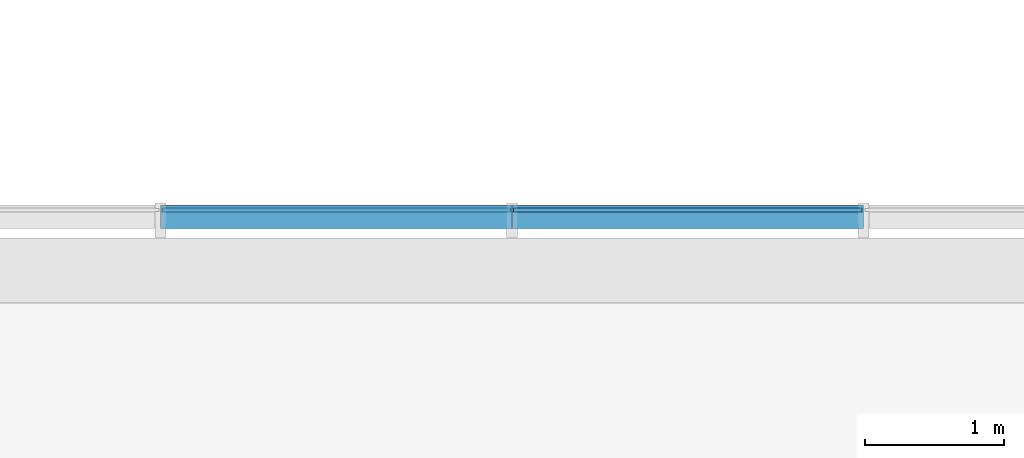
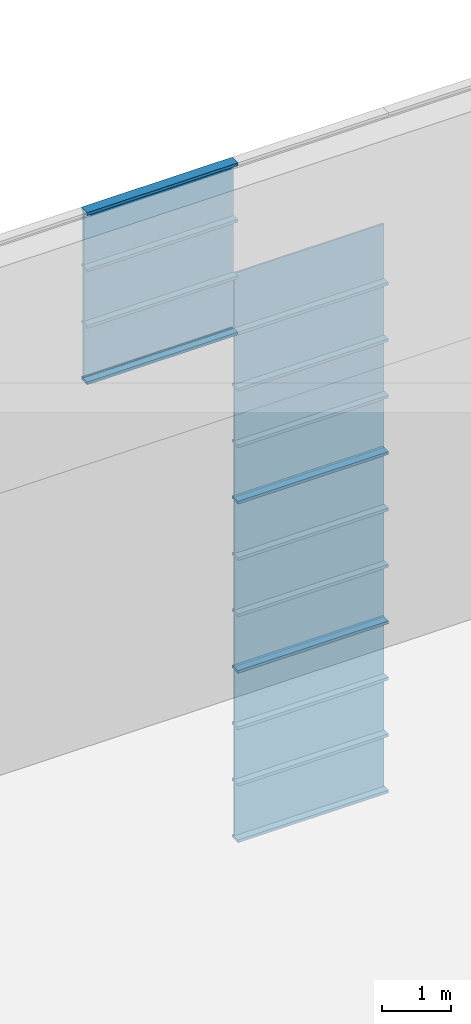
# One storey, part 48 of 105: 30 building element parts, 4 elements without a shape of their own.
"""IFC4 building model written with IfcOpenShell, lengths in millimetres."""

from ifc_helpers import new_model, entity, si_unit, converted_unit, derived_unit, direction, frame, origin_with_axes, place, context, subcontext, project, spatial, triangles, material, element, aggregate, save


model = new_model("IFC4")

# Units and contexts
model_context = context("Model", 3, precision=1e-05, world=origin_with_axes(), true_north=direction((0.0, 1.0)))
body_context = subcontext(model_context, "Body", "Model", "MODEL_VIEW")
ifc_project = project(units=[si_unit("LENGTHUNIT", "METRE", prefix="MILLI"), si_unit("AREAUNIT", "SQUARE_METRE"), si_unit("VOLUMEUNIT", "CUBIC_METRE"), converted_unit("PLANEANGLEUNIT", "DEGREE", entity("IfcLengthMeasure", 0.017453), si_unit("PLANEANGLEUNIT", "RADIAN"), dimensions=[0, 0, 0, 0, 0, 0, 0]), si_unit("SOLIDANGLEUNIT", "STERADIAN"), si_unit("MASSUNIT", "GRAM"), si_unit("TIMEUNIT", "SECOND"), si_unit("THERMODYNAMICTEMPERATUREUNIT", "DEGREE_CELSIUS"), si_unit("LUMINOUSINTENSITYUNIT", "LUMEN"), si_unit("POWERUNIT", "WATT"), derived_unit("THERMALTRANSMITTANCEUNIT", [(si_unit("POWERUNIT", "WATT"), 1), (si_unit("THERMODYNAMICTEMPERATUREUNIT", "KELVIN"), -1), (si_unit("AREAUNIT", "SQUARE_METRE"), -1)])], contexts=[model_context])

# Site, building, storey
site_placement = place(None, origin_with_axes())
site = spatial("IfcSite", under=ifc_project, at=site_placement, Name="Default Site", CompositionType="ELEMENT")
building_placement = place(site_placement, origin_with_axes())
building = spatial("IfcBuilding", under=site, at=building_placement, Name="Default Building", CompositionType="ELEMENT")
storey_placement = place(building_placement, origin_with_axes())
storey = spatial("IfcBuildingStorey", under=building, at=storey_placement, Name="OG - Story", CompositionType="ELEMENT", Elevation=0.0)

# Curtain wall, building element parts
curtain_wall_1_placement = place(storey_placement, origin_with_axes())
curtain_wall_1 = element("IfcCurtainWall", 1, at=curtain_wall_1_placement, inside=storey, Name="Fassade-004", PredefinedType="NOTDEFINED")
ifc_material_1 = material(Name="Normalglas")
building_element_part_1_placement = place(curtain_wall_1_placement, frame((33014.549222, -4389.262838, 0.0), z_axis=(0.0, 0.0, 1.0), x_axis=(1.0, 0.0, 0.0)))
building_element_part_1 = element("IfcBuildingElementPart", 2, at=building_element_part_1_placement, material=ifc_material_1, Name="Normalglas", PredefinedType="NOTDEFINED", context=body_context, shape_type="Tessellation", body=[
    triangles([(23990.0, -14.999, 995.0), (23990.0, 15.0, 995.0), (21483.684, 15.0, 995.0), (21483.684, -14.999, 995.0), (23990.0, -14.999, 5.0), (23990.0, 15.0, 5.0), (21483.684, 15.0, 5.0), (21483.684, -14.999, 5.0)], [[1, 2, 3], [1, 3, 4], [5, 6, 2], [5, 2, 1], [2, 6, 7], [2, 7, 3], [4, 3, 7], [4, 7, 8], [1, 4, 8], [1, 8, 5], [8, 7, 6], [8, 6, 5]], closed=False),
])
building_element_part_2_placement = place(curtain_wall_1_placement, frame((33014.549222, -4389.262838, 0.0), z_axis=(0.0, 0.0, 1.0), x_axis=(1.0, 0.0, 0.0)))
building_element_part_2 = element("IfcBuildingElementPart", 3, at=building_element_part_2_placement, material=ifc_material_1, Name="Normalglas", PredefinedType="NOTDEFINED", context=body_context, shape_type="Tessellation", body=[
    triangles([(23990.0, -14.999, 1995.0), (23990.0, 15.0, 1995.0), (21483.684, 15.0, 1995.0), (21483.684, -14.999, 1995.0), (23990.0, -14.999, 1005.0), (23990.0, 15.0, 1005.0), (21483.684, 15.0, 1005.0), (21483.684, -14.999, 1005.0)], [[1, 2, 3], [1, 3, 4], [5, 6, 2], [5, 2, 1], [2, 6, 7], [2, 7, 3], [4, 3, 7], [4, 7, 8], [1, 4, 8], [1, 8, 5], [8, 7, 6], [8, 6, 5]], closed=False),
])
building_element_part_3_placement = place(curtain_wall_1_placement, frame((33014.549222, -4389.262838, 0.0), z_axis=(0.0, 0.0, 1.0), x_axis=(1.0, 0.0, 0.0)))
building_element_part_3 = element("IfcBuildingElementPart", 4, at=building_element_part_3_placement, material=ifc_material_1, Name="Normalglas", PredefinedType="NOTDEFINED", context=body_context, shape_type="Tessellation", body=[
    triangles([(23990.0, -14.999, 2995.0), (23990.0, 15.0, 2995.0), (21483.684, 15.0, 2995.0), (21483.684, -14.999, 2995.0), (23990.0, -14.999, 2005.0), (23990.0, 15.0, 2005.0), (21483.684, 15.0, 2005.0), (21483.684, -14.999, 2005.0)], [[1, 2, 3], [1, 3, 4], [5, 6, 2], [5, 2, 1], [2, 6, 7], [2, 7, 3], [4, 3, 7], [4, 7, 8], [1, 4, 8], [1, 8, 5], [8, 7, 6], [8, 6, 5]], closed=False),
])
ifc_material_2 = material(Name="Blech")
building_element_part_4_placement = place(curtain_wall_1_placement, frame((33014.549222, -4389.262838, 0.0), z_axis=(0.0, 0.0, 1.0), x_axis=(1.0, 0.0, 0.0)))
building_element_part_4 = element("IfcBuildingElementPart", 5, at=building_element_part_4_placement, material=ifc_material_2, Name="Blech", PredefinedType="NOTDEFINED", context=body_context, shape_type="Tessellation", body=[
    triangles([(24000.0, 35.0, -24.999), (24000.0, 35.0, 25.0), (24000.0, 15.0, 25.0), (24000.0, 15.0, 5.0), (24000.0, -14.999, 5.0), (24000.0, -132.999, 25.0), (24000.0, -132.999, -24.999), (24000.0, -14.999, 25.0), (21473.684, -14.999, 5.0), (21473.684, -14.999, 25.0), (21473.684, -132.999, 25.0), (21473.684, -132.999, -24.999), (21473.684, 35.0, -24.999), (21473.684, 35.0, 25.0), (21473.684, 15.0, 25.0), (21473.684, 15.0, 5.0)], [[1, 2, 3], [1, 3, 4], [1, 4, 5], [1, 5, 6], [1, 6, 7], [8, 6, 5], [5, 9, 10], [5, 10, 8], [10, 11, 6], [10, 6, 8], [11, 12, 7], [11, 7, 6], [12, 13, 1], [12, 1, 7], [13, 14, 2], [13, 2, 1], [3, 2, 14], [3, 14, 15], [15, 16, 4], [15, 4, 3], [4, 16, 9], [4, 9, 5], [15, 16, 13], [13, 16, 9], [13, 9, 11], [11, 9, 10], [13, 11, 12], [15, 13, 14]], closed=False),
])
building_element_part_5_placement = place(curtain_wall_1_placement, frame((33014.549222, -4389.262838, 0.0), z_axis=(0.0, 0.0, 1.0), x_axis=(1.0, 0.0, 0.0)))
building_element_part_5 = element("IfcBuildingElementPart", 6, at=building_element_part_5_placement, material=ifc_material_2, Name="Blech", PredefinedType="NOTDEFINED", context=body_context, shape_type="Tessellation", body=[
    triangles([(24000.0, 35.0, 975.0), (24000.0, 15.0, 975.0), (24000.0, 35.0, 1025.0), (24000.0, 15.0, 995.0), (24000.0, 15.0, 1005.0), (24000.0, -14.999, 995.0), (24000.0, -14.999, 1005.0), (24000.0, -14.999, 1025.0), (24000.0, -14.999, 975.0), (24000.0, -132.999, 975.0), (24000.0, -132.999, 1025.0), (24000.0, 15.0, 1025.0), (21473.684, -14.999, 995.0), (21473.684, 15.0, 995.0), (21473.684, 15.0, 975.0), (21473.684, 35.0, 975.0), (21473.684, 35.0, 1025.0), (21473.684, 15.0, 1025.0), (21473.684, 15.0, 1005.0), (21473.684, -14.999, 1005.0), (21473.684, -14.999, 1025.0), (21473.684, -132.999, 1025.0), (21473.684, -132.999, 975.0), (21473.684, -14.999, 975.0)], [[1, 2, 3], [3, 2, 4], [3, 4, 5], [5, 4, 6], [5, 6, 7], [8, 9, 10], [8, 10, 11], [3, 5, 12], [6, 13, 14], [6, 14, 4], [4, 14, 15], [4, 15, 2], [15, 16, 1], [15, 1, 2], [1, 16, 17], [1, 17, 3], [18, 12, 3], [18, 3, 17], [12, 18, 19], [12, 19, 5], [7, 5, 19], [7, 19, 20], [8, 7, 20], [8, 20, 21], [8, 21, 22], [8, 22, 11], [11, 22, 23], [11, 23, 10], [9, 10, 23], [9, 23, 24], [9, 24, 13], [9, 13, 6], [17, 18, 16], [16, 18, 19], [16, 19, 14], [14, 19, 20], [14, 20, 13], [24, 21, 22], [24, 22, 23], [16, 14, 15]], closed=False),
])
building_element_part_6_placement = place(curtain_wall_1_placement, frame((33014.549222, -4389.262838, 0.0), z_axis=(0.0, 0.0, 1.0), x_axis=(1.0, 0.0, 0.0)))
building_element_part_6 = element("IfcBuildingElementPart", 7, at=building_element_part_6_placement, material=ifc_material_2, Name="Blech", PredefinedType="NOTDEFINED", context=body_context, shape_type="Tessellation", body=[
    triangles([(24000.0, 35.0, 1975.0), (24000.0, 15.0, 1975.0), (24000.0, 35.0, 2025.0), (24000.0, 15.0, 1995.0), (24000.0, 15.0, 2005.0), (24000.0, -14.999, 1995.0), (24000.0, -14.999, 2005.0), (24000.0, -14.999, 2025.0), (24000.0, -14.999, 1975.0), (24000.0, -132.999, 1975.0), (24000.0, -132.999, 2025.0), (24000.0, 15.0, 2025.0), (21473.684, -14.999, 1995.0), (21473.684, 15.0, 1995.0), (21473.684, 15.0, 1975.0), (21473.684, 35.0, 1975.0), (21473.684, 35.0, 2025.0), (21473.684, 15.0, 2025.0), (21473.684, 15.0, 2005.0), (21473.684, -14.999, 2005.0), (21473.684, -14.999, 2025.0), (21473.684, -132.999, 2025.0), (21473.684, -132.999, 1975.0), (21473.684, -14.999, 1975.0)], [[1, 2, 3], [3, 2, 4], [3, 4, 5], [5, 4, 6], [5, 6, 7], [8, 9, 10], [8, 10, 11], [3, 5, 12], [6, 13, 14], [6, 14, 4], [4, 14, 15], [4, 15, 2], [15, 16, 1], [15, 1, 2], [1, 16, 17], [1, 17, 3], [18, 12, 3], [18, 3, 17], [12, 18, 19], [12, 19, 5], [7, 5, 19], [7, 19, 20], [8, 7, 20], [8, 20, 21], [8, 21, 22], [8, 22, 11], [11, 22, 23], [11, 23, 10], [9, 10, 23], [9, 23, 24], [9, 24, 13], [9, 13, 6], [17, 18, 16], [16, 18, 19], [16, 19, 14], [14, 19, 20], [14, 20, 13], [24, 21, 22], [24, 22, 23], [16, 14, 15]], closed=False),
])
building_element_part_7_placement = place(curtain_wall_1_placement, frame((33014.549222, -4389.262838, 0.0), z_axis=(0.0, 0.0, 1.0), x_axis=(1.0, 0.0, 0.0)))
building_element_part_7 = element("IfcBuildingElementPart", 8, at=building_element_part_7_placement, material=ifc_material_2, Name="Blech", PredefinedType="NOTDEFINED", context=body_context, shape_type="Tessellation", body=[
    triangles([(24000.0, 15.0, 2975.0), (24000.0, 15.0, 2995.0), (24000.0, 35.0, 3025.0), (24000.0, -14.999, 2995.0), (24000.0, -132.999, 2975.0), (24000.0, -14.999, 2975.0), (24000.0, -132.999, 3025.0), (24000.0, 35.0, 2975.0), (21473.684, -14.999, 2995.0), (21473.684, 15.0, 2995.0), (21473.684, 15.0, 2975.0), (21473.684, 35.0, 2975.0), (21473.684, 35.0, 3025.0), (21473.684, -132.999, 3025.0), (21473.684, -132.999, 2975.0), (21473.684, -14.999, 2975.0)], [[1, 2, 3], [3, 2, 4], [3, 4, 5], [5, 4, 6], [3, 5, 7], [1, 3, 8], [2, 4, 9], [2, 9, 10], [11, 1, 2], [11, 2, 10], [1, 11, 12], [1, 12, 8], [13, 3, 8], [13, 8, 12], [14, 7, 3], [14, 3, 13], [15, 5, 7], [15, 7, 14], [16, 6, 5], [16, 5, 15], [4, 6, 16], [4, 16, 9], [13, 12, 11], [13, 11, 10], [13, 10, 9], [13, 9, 15], [13, 15, 14], [16, 15, 9]], closed=False),
])
aggregate(curtain_wall_1, [building_element_part_1, building_element_part_2, building_element_part_3, building_element_part_4, building_element_part_5, building_element_part_6, building_element_part_7])

curtain_wall_2_placement = place(storey_placement, origin_with_axes())
curtain_wall_2 = element("IfcCurtainWall", 9, at=curtain_wall_2_placement, inside=storey, Name="Fassade-004", PredefinedType="NOTDEFINED")
building_element_part_8_placement = place(curtain_wall_2_placement, frame((33014.549222, -4389.262838, 3000.0), z_axis=(0.0, 0.0, 1.0), x_axis=(1.0, 0.0, 0.0)))
building_element_part_8 = element("IfcBuildingElementPart", 10, at=building_element_part_8_placement, material=ifc_material_1, Name="Normalglas", PredefinedType="NOTDEFINED", context=body_context, shape_type="Tessellation", body=[
    triangles([(23990.0, -14.999, 995.0), (23990.0, 15.0, 995.0), (21483.684, 15.0, 995.0), (21483.684, -14.999, 995.0), (23990.0, -14.999, 5.0), (23990.0, 15.0, 5.0), (21483.684, 15.0, 5.0), (21483.684, -14.999, 5.0)], [[1, 2, 3], [1, 3, 4], [5, 6, 2], [5, 2, 1], [2, 6, 7], [2, 7, 3], [4, 3, 7], [4, 7, 8], [1, 4, 8], [1, 8, 5], [8, 7, 6], [8, 6, 5]], closed=False),
])
building_element_part_9_placement = place(curtain_wall_2_placement, frame((33014.549222, -4389.262838, 3000.0), z_axis=(0.0, 0.0, 1.0), x_axis=(1.0, 0.0, 0.0)))
building_element_part_9 = element("IfcBuildingElementPart", 11, at=building_element_part_9_placement, material=ifc_material_1, Name="Normalglas", PredefinedType="NOTDEFINED", context=body_context, shape_type="Tessellation", body=[
    triangles([(23990.0, -14.999, 1995.0), (23990.0, 15.0, 1995.0), (21483.684, 15.0, 1995.0), (21483.684, -14.999, 1995.0), (23990.0, -14.999, 1005.0), (23990.0, 15.0, 1005.0), (21483.684, 15.0, 1005.0), (21483.684, -14.999, 1005.0)], [[1, 2, 3], [1, 3, 4], [5, 6, 2], [5, 2, 1], [2, 6, 7], [2, 7, 3], [4, 3, 7], [4, 7, 8], [1, 4, 8], [1, 8, 5], [8, 7, 6], [8, 6, 5]], closed=False),
])
building_element_part_10_placement = place(curtain_wall_2_placement, frame((33014.549222, -4389.262838, 3000.0), z_axis=(0.0, 0.0, 1.0), x_axis=(1.0, 0.0, 0.0)))
building_element_part_10 = element("IfcBuildingElementPart", 12, at=building_element_part_10_placement, material=ifc_material_1, Name="Normalglas", PredefinedType="NOTDEFINED", context=body_context, shape_type="Tessellation", body=[
    triangles([(23990.0, -14.999, 2995.0), (23990.0, 15.0, 2995.0), (21483.684, 15.0, 2995.0), (21483.684, -14.999, 2995.0), (23990.0, -14.999, 2005.0), (23990.0, 15.0, 2005.0), (21483.684, 15.0, 2005.0), (21483.684, -14.999, 2005.0)], [[1, 2, 3], [1, 3, 4], [5, 6, 2], [5, 2, 1], [2, 6, 7], [2, 7, 3], [4, 3, 7], [4, 7, 8], [1, 4, 8], [1, 8, 5], [8, 7, 6], [8, 6, 5]], closed=False),
])
building_element_part_11_placement = place(curtain_wall_2_placement, frame((33014.549222, -4389.262838, 3000.0), z_axis=(0.0, 0.0, 1.0), x_axis=(1.0, 0.0, 0.0)))
building_element_part_11 = element("IfcBuildingElementPart", 13, at=building_element_part_11_placement, material=ifc_material_2, Name="Blech", PredefinedType="NOTDEFINED", context=body_context, shape_type="Tessellation", body=[
    triangles([(24000.0, 35.0, -24.999), (24000.0, 35.0, 25.0), (24000.0, 15.0, 25.0), (24000.0, 15.0, 5.0), (24000.0, -14.999, 5.0), (24000.0, -132.999, 25.0), (24000.0, -132.999, -24.999), (24000.0, -14.999, 25.0), (21473.684, -14.999, 5.0), (21473.684, -14.999, 25.0), (21473.684, -132.999, 25.0), (21473.684, -132.999, -24.999), (21473.684, 35.0, -24.999), (21473.684, 35.0, 25.0), (21473.684, 15.0, 25.0), (21473.684, 15.0, 5.0)], [[1, 2, 3], [1, 3, 4], [1, 4, 5], [1, 5, 6], [1, 6, 7], [8, 6, 5], [5, 9, 10], [5, 10, 8], [10, 11, 6], [10, 6, 8], [11, 12, 7], [11, 7, 6], [12, 13, 1], [12, 1, 7], [13, 14, 2], [13, 2, 1], [3, 2, 14], [3, 14, 15], [15, 16, 4], [15, 4, 3], [4, 16, 9], [4, 9, 5], [15, 16, 13], [13, 16, 9], [13, 9, 11], [11, 9, 10], [13, 11, 12], [15, 13, 14]], closed=False),
])
building_element_part_12_placement = place(curtain_wall_2_placement, frame((33014.549222, -4389.262838, 3000.0), z_axis=(0.0, 0.0, 1.0), x_axis=(1.0, 0.0, 0.0)))
building_element_part_12 = element("IfcBuildingElementPart", 14, at=building_element_part_12_placement, material=ifc_material_2, Name="Blech", PredefinedType="NOTDEFINED", context=body_context, shape_type="Tessellation", body=[
    triangles([(24000.0, 35.0, 975.0), (24000.0, 15.0, 975.0), (24000.0, 35.0, 1025.0), (24000.0, 15.0, 995.0), (24000.0, 15.0, 1005.0), (24000.0, -14.999, 995.0), (24000.0, -14.999, 1005.0), (24000.0, -14.999, 1025.0), (24000.0, -14.999, 975.0), (24000.0, -132.999, 975.0), (24000.0, -132.999, 1025.0), (24000.0, 15.0, 1025.0), (21473.684, -14.999, 995.0), (21473.684, 15.0, 995.0), (21473.684, 15.0, 975.0), (21473.684, 35.0, 975.0), (21473.684, 35.0, 1025.0), (21473.684, 15.0, 1025.0), (21473.684, 15.0, 1005.0), (21473.684, -14.999, 1005.0), (21473.684, -14.999, 1025.0), (21473.684, -132.999, 1025.0), (21473.684, -132.999, 975.0), (21473.684, -14.999, 975.0)], [[1, 2, 3], [3, 2, 4], [3, 4, 5], [5, 4, 6], [5, 6, 7], [8, 9, 10], [8, 10, 11], [3, 5, 12], [6, 13, 14], [6, 14, 4], [4, 14, 15], [4, 15, 2], [15, 16, 1], [15, 1, 2], [1, 16, 17], [1, 17, 3], [18, 12, 3], [18, 3, 17], [12, 18, 19], [12, 19, 5], [7, 5, 19], [7, 19, 20], [8, 7, 20], [8, 20, 21], [8, 21, 22], [8, 22, 11], [11, 22, 23], [11, 23, 10], [9, 10, 23], [9, 23, 24], [9, 24, 13], [9, 13, 6], [17, 18, 16], [16, 18, 19], [16, 19, 14], [14, 19, 20], [14, 20, 13], [24, 21, 22], [24, 22, 23], [16, 14, 15]], closed=False),
])
building_element_part_13_placement = place(curtain_wall_2_placement, frame((33014.549222, -4389.262838, 3000.0), z_axis=(0.0, 0.0, 1.0), x_axis=(1.0, 0.0, 0.0)))
building_element_part_13 = element("IfcBuildingElementPart", 15, at=building_element_part_13_placement, material=ifc_material_2, Name="Blech", PredefinedType="NOTDEFINED", context=body_context, shape_type="Tessellation", body=[
    triangles([(24000.0, 35.0, 1975.0), (24000.0, 15.0, 1975.0), (24000.0, 35.0, 2025.0), (24000.0, 15.0, 1995.0), (24000.0, 15.0, 2005.0), (24000.0, -14.999, 1995.0), (24000.0, -14.999, 2005.0), (24000.0, -14.999, 2025.0), (24000.0, -14.999, 1975.0), (24000.0, -132.999, 1975.0), (24000.0, -132.999, 2025.0), (24000.0, 15.0, 2025.0), (21473.684, -14.999, 1995.0), (21473.684, 15.0, 1995.0), (21473.684, 15.0, 1975.0), (21473.684, 35.0, 1975.0), (21473.684, 35.0, 2025.0), (21473.684, 15.0, 2025.0), (21473.684, 15.0, 2005.0), (21473.684, -14.999, 2005.0), (21473.684, -14.999, 2025.0), (21473.684, -132.999, 2025.0), (21473.684, -132.999, 1975.0), (21473.684, -14.999, 1975.0)], [[1, 2, 3], [3, 2, 4], [3, 4, 5], [5, 4, 6], [5, 6, 7], [8, 9, 10], [8, 10, 11], [3, 5, 12], [6, 13, 14], [6, 14, 4], [4, 14, 15], [4, 15, 2], [15, 16, 1], [15, 1, 2], [1, 16, 17], [1, 17, 3], [18, 12, 3], [18, 3, 17], [12, 18, 19], [12, 19, 5], [7, 5, 19], [7, 19, 20], [8, 7, 20], [8, 20, 21], [8, 21, 22], [8, 22, 11], [11, 22, 23], [11, 23, 10], [9, 10, 23], [9, 23, 24], [9, 24, 13], [9, 13, 6], [17, 18, 16], [16, 18, 19], [16, 19, 14], [14, 19, 20], [14, 20, 13], [24, 21, 22], [24, 22, 23], [16, 14, 15]], closed=False),
])
building_element_part_14_placement = place(curtain_wall_2_placement, frame((33014.549222, -4389.262838, 3000.0), z_axis=(0.0, 0.0, 1.0), x_axis=(1.0, 0.0, 0.0)))
building_element_part_14 = element("IfcBuildingElementPart", 16, at=building_element_part_14_placement, material=ifc_material_2, Name="Blech", PredefinedType="NOTDEFINED", context=body_context, shape_type="Tessellation", body=[
    triangles([(24000.0, 15.0, 2975.0), (24000.0, 15.0, 2995.0), (24000.0, 35.0, 3025.0), (24000.0, -14.999, 2995.0), (24000.0, -132.999, 2975.0), (24000.0, -14.999, 2975.0), (24000.0, -132.999, 3025.0), (24000.0, 35.0, 2975.0), (21473.684, -14.999, 2995.0), (21473.684, 15.0, 2995.0), (21473.684, 15.0, 2975.0), (21473.684, 35.0, 2975.0), (21473.684, 35.0, 3025.0), (21473.684, -132.999, 3025.0), (21473.684, -132.999, 2975.0), (21473.684, -14.999, 2975.0)], [[1, 2, 3], [3, 2, 4], [3, 4, 5], [5, 4, 6], [3, 5, 7], [1, 3, 8], [2, 4, 9], [2, 9, 10], [11, 1, 2], [11, 2, 10], [1, 11, 12], [1, 12, 8], [13, 3, 8], [13, 8, 12], [14, 7, 3], [14, 3, 13], [15, 5, 7], [15, 7, 14], [16, 6, 5], [16, 5, 15], [4, 6, 16], [4, 16, 9], [13, 12, 11], [13, 11, 10], [13, 10, 9], [13, 9, 15], [13, 15, 14], [16, 15, 9]], closed=False),
])
aggregate(curtain_wall_2, [building_element_part_8, building_element_part_9, building_element_part_10, building_element_part_11, building_element_part_12, building_element_part_13, building_element_part_14])

curtain_wall_3_placement = place(storey_placement, origin_with_axes())
curtain_wall_3 = element("IfcCurtainWall", 17, at=curtain_wall_3_placement, inside=storey, Name="Fassade-004", PredefinedType="NOTDEFINED")
building_element_part_15_placement = place(curtain_wall_3_placement, frame((33014.549222, -4389.262838, 6000.0), z_axis=(0.0, 0.0, 1.0), x_axis=(1.0, 0.0, 0.0)))
building_element_part_15 = element("IfcBuildingElementPart", 18, at=building_element_part_15_placement, material=ifc_material_1, Name="Normalglas", PredefinedType="NOTDEFINED", context=body_context, shape_type="Tessellation", body=[
    triangles([(23990.0, -14.999, 995.0), (23990.0, 15.0, 995.0), (21483.684, 15.0, 995.0), (21483.684, -14.999, 995.0), (23990.0, -14.999, 5.0), (23990.0, 15.0, 5.0), (21483.684, 15.0, 5.0), (21483.684, -14.999, 5.0)], [[1, 2, 3], [1, 3, 4], [5, 6, 2], [5, 2, 1], [2, 6, 7], [2, 7, 3], [4, 3, 7], [4, 7, 8], [1, 4, 8], [1, 8, 5], [8, 7, 6], [8, 6, 5]], closed=False),
])
building_element_part_16_placement = place(curtain_wall_3_placement, frame((33014.549222, -4389.262838, 6000.0), z_axis=(0.0, 0.0, 1.0), x_axis=(1.0, 0.0, 0.0)))
building_element_part_16 = element("IfcBuildingElementPart", 19, at=building_element_part_16_placement, material=ifc_material_1, Name="Normalglas", PredefinedType="NOTDEFINED", context=body_context, shape_type="Tessellation", body=[
    triangles([(23990.0, -14.999, 1995.0), (23990.0, 15.0, 1995.0), (21483.684, 15.0, 1995.0), (21483.684, -14.999, 1995.0), (23990.0, -14.999, 1005.0), (23990.0, 15.0, 1005.0), (21483.684, 15.0, 1005.0), (21483.684, -14.999, 1005.0)], [[1, 2, 3], [1, 3, 4], [5, 6, 2], [5, 2, 1], [2, 6, 7], [2, 7, 3], [4, 3, 7], [4, 7, 8], [1, 4, 8], [1, 8, 5], [8, 7, 6], [8, 6, 5]], closed=False),
])
building_element_part_17_placement = place(curtain_wall_3_placement, frame((33014.549222, -4389.262838, 6000.0), z_axis=(0.0, 0.0, 1.0), x_axis=(1.0, 0.0, 0.0)))
building_element_part_17 = element("IfcBuildingElementPart", 20, at=building_element_part_17_placement, material=ifc_material_1, Name="Normalglas", PredefinedType="NOTDEFINED", context=body_context, shape_type="Tessellation", body=[
    triangles([(23990.0, -14.999, 2995.0), (23990.0, 15.0, 2995.0), (21483.684, 15.0, 2995.0), (21483.684, -14.999, 2995.0), (23990.0, -14.999, 2005.0), (23990.0, 15.0, 2005.0), (21483.684, 15.0, 2005.0), (21483.684, -14.999, 2005.0)], [[1, 2, 3], [1, 3, 4], [5, 6, 2], [5, 2, 1], [2, 6, 7], [2, 7, 3], [4, 3, 7], [4, 7, 8], [1, 4, 8], [1, 8, 5], [8, 7, 6], [8, 6, 5]], closed=False),
])
building_element_part_18_placement = place(curtain_wall_3_placement, frame((33014.549222, -4389.262838, 6000.0), z_axis=(0.0, 0.0, 1.0), x_axis=(1.0, 0.0, 0.0)))
building_element_part_18 = element("IfcBuildingElementPart", 21, at=building_element_part_18_placement, material=ifc_material_2, Name="Blech", PredefinedType="NOTDEFINED", context=body_context, shape_type="Tessellation", body=[
    triangles([(24000.0, 35.0, -24.999), (24000.0, 35.0, 25.0), (24000.0, 15.0, 25.0), (24000.0, 15.0, 5.0), (24000.0, -14.999, 5.0), (24000.0, -132.999, 25.0), (24000.0, -132.999, -24.999), (24000.0, -14.999, 25.0), (21473.684, -14.999, 5.0), (21473.684, -14.999, 25.0), (21473.684, -132.999, 25.0), (21473.684, -132.999, -24.999), (21473.684, 35.0, -24.999), (21473.684, 35.0, 25.0), (21473.684, 15.0, 25.0), (21473.684, 15.0, 5.0)], [[1, 2, 3], [1, 3, 4], [1, 4, 5], [1, 5, 6], [1, 6, 7], [8, 6, 5], [5, 9, 10], [5, 10, 8], [10, 11, 6], [10, 6, 8], [11, 12, 7], [11, 7, 6], [12, 13, 1], [12, 1, 7], [13, 14, 2], [13, 2, 1], [3, 2, 14], [3, 14, 15], [15, 16, 4], [15, 4, 3], [4, 16, 9], [4, 9, 5], [15, 16, 13], [13, 16, 9], [13, 9, 11], [11, 9, 10], [13, 11, 12], [15, 13, 14]], closed=False),
])
building_element_part_19_placement = place(curtain_wall_3_placement, frame((33014.549222, -4389.262838, 6000.0), z_axis=(0.0, 0.0, 1.0), x_axis=(1.0, 0.0, 0.0)))
building_element_part_19 = element("IfcBuildingElementPart", 22, at=building_element_part_19_placement, material=ifc_material_2, Name="Blech", PredefinedType="NOTDEFINED", context=body_context, shape_type="Tessellation", body=[
    triangles([(24000.0, 35.0, 975.0), (24000.0, 15.0, 975.0), (24000.0, 35.0, 1025.0), (24000.0, 15.0, 995.0), (24000.0, 15.0, 1005.0), (24000.0, -14.999, 995.0), (24000.0, -14.999, 1005.0), (24000.0, -14.999, 1025.0), (24000.0, -14.999, 975.0), (24000.0, -132.999, 975.0), (24000.0, -132.999, 1025.0), (24000.0, 15.0, 1025.0), (21473.684, -14.999, 995.0), (21473.684, 15.0, 995.0), (21473.684, 15.0, 975.0), (21473.684, 35.0, 975.0), (21473.684, 35.0, 1025.0), (21473.684, 15.0, 1025.0), (21473.684, 15.0, 1005.0), (21473.684, -14.999, 1005.0), (21473.684, -14.999, 1025.0), (21473.684, -132.999, 1025.0), (21473.684, -132.999, 975.0), (21473.684, -14.999, 975.0)], [[1, 2, 3], [3, 2, 4], [3, 4, 5], [5, 4, 6], [5, 6, 7], [8, 9, 10], [8, 10, 11], [3, 5, 12], [6, 13, 14], [6, 14, 4], [4, 14, 15], [4, 15, 2], [15, 16, 1], [15, 1, 2], [1, 16, 17], [1, 17, 3], [18, 12, 3], [18, 3, 17], [12, 18, 19], [12, 19, 5], [7, 5, 19], [7, 19, 20], [8, 7, 20], [8, 20, 21], [8, 21, 22], [8, 22, 11], [11, 22, 23], [11, 23, 10], [9, 10, 23], [9, 23, 24], [9, 24, 13], [9, 13, 6], [17, 18, 16], [16, 18, 19], [16, 19, 14], [14, 19, 20], [14, 20, 13], [24, 21, 22], [24, 22, 23], [16, 14, 15]], closed=False),
])
building_element_part_20_placement = place(curtain_wall_3_placement, frame((33014.549222, -4389.262838, 6000.0), z_axis=(0.0, 0.0, 1.0), x_axis=(1.0, 0.0, 0.0)))
building_element_part_20 = element("IfcBuildingElementPart", 23, at=building_element_part_20_placement, material=ifc_material_2, Name="Blech", PredefinedType="NOTDEFINED", context=body_context, shape_type="Tessellation", body=[
    triangles([(21473.684, 15.0, 2975.0), (21473.684, 15.0, 2995.0), (21473.684, 35.0, 3025.0), (21473.684, -14.999, 2995.0), (21473.684, -132.999, 2975.0), (21473.684, -14.999, 2975.0), (21473.684, -132.999, 3025.0), (21473.684, 35.0, 2975.0), (18947.368, -14.999, 2995.0), (18947.368, 15.0, 2995.0), (18947.368, 15.0, 2975.0), (18947.368, 35.0, 2975.0), (18947.368, 35.0, 3025.0), (18947.368, -132.999, 3025.0), (18947.368, -132.999, 2975.0), (18947.368, -14.999, 2975.0)], [[1, 2, 3], [3, 2, 4], [3, 4, 5], [5, 4, 6], [3, 5, 7], [1, 3, 8], [2, 4, 9], [2, 9, 10], [11, 1, 2], [11, 2, 10], [1, 11, 12], [1, 12, 8], [13, 3, 8], [13, 8, 12], [14, 7, 3], [14, 3, 13], [15, 5, 7], [15, 7, 14], [16, 6, 5], [16, 5, 15], [4, 6, 16], [4, 16, 9], [13, 12, 11], [13, 11, 10], [13, 10, 9], [13, 9, 15], [13, 15, 14], [16, 15, 9]], closed=False),
])
building_element_part_21_placement = place(curtain_wall_3_placement, frame((33014.549222, -4389.262838, 6000.0), z_axis=(0.0, 0.0, 1.0), x_axis=(1.0, 0.0, 0.0)))
building_element_part_21 = element("IfcBuildingElementPart", 24, at=building_element_part_21_placement, material=ifc_material_2, Name="Blech", PredefinedType="NOTDEFINED", context=body_context, shape_type="Tessellation", body=[
    triangles([(24000.0, 35.0, 1975.0), (24000.0, 15.0, 1975.0), (24000.0, 35.0, 2025.0), (24000.0, 15.0, 1995.0), (24000.0, 15.0, 2005.0), (24000.0, -14.999, 1995.0), (24000.0, -14.999, 2005.0), (24000.0, -14.999, 2025.0), (24000.0, -14.999, 1975.0), (24000.0, -132.999, 1975.0), (24000.0, -132.999, 2025.0), (24000.0, 15.0, 2025.0), (21473.684, -14.999, 1995.0), (21473.684, 15.0, 1995.0), (21473.684, 15.0, 1975.0), (21473.684, 35.0, 1975.0), (21473.684, 35.0, 2025.0), (21473.684, 15.0, 2025.0), (21473.684, 15.0, 2005.0), (21473.684, -14.999, 2005.0), (21473.684, -14.999, 2025.0), (21473.684, -132.999, 2025.0), (21473.684, -132.999, 1975.0), (21473.684, -14.999, 1975.0)], [[1, 2, 3], [3, 2, 4], [3, 4, 5], [5, 4, 6], [5, 6, 7], [8, 9, 10], [8, 10, 11], [3, 5, 12], [6, 13, 14], [6, 14, 4], [4, 14, 15], [4, 15, 2], [15, 16, 1], [15, 1, 2], [1, 16, 17], [1, 17, 3], [18, 12, 3], [18, 3, 17], [12, 18, 19], [12, 19, 5], [7, 5, 19], [7, 19, 20], [8, 7, 20], [8, 20, 21], [8, 21, 22], [8, 22, 11], [11, 22, 23], [11, 23, 10], [9, 10, 23], [9, 23, 24], [9, 24, 13], [9, 13, 6], [17, 18, 16], [16, 18, 19], [16, 19, 14], [14, 19, 20], [14, 20, 13], [24, 21, 22], [24, 22, 23], [16, 14, 15]], closed=False),
])
building_element_part_22_placement = place(curtain_wall_3_placement, frame((33014.549222, -4389.262838, 6000.0), z_axis=(0.0, 0.0, 1.0), x_axis=(1.0, 0.0, 0.0)))
building_element_part_22 = element("IfcBuildingElementPart", 25, at=building_element_part_22_placement, material=ifc_material_2, Name="Blech", PredefinedType="NOTDEFINED", context=body_context, shape_type="Tessellation", body=[
    triangles([(24000.0, 15.0, 2975.0), (24000.0, 15.0, 2995.0), (24000.0, 35.0, 3025.0), (24000.0, -14.999, 2995.0), (24000.0, -132.999, 2975.0), (24000.0, -14.999, 2975.0), (24000.0, -132.999, 3025.0), (24000.0, 35.0, 2975.0), (21473.684, -14.999, 2995.0), (21473.684, 15.0, 2995.0), (21473.684, 15.0, 2975.0), (21473.684, 35.0, 2975.0), (21473.684, 35.0, 3025.0), (21473.684, -132.999, 3025.0), (21473.684, -132.999, 2975.0), (21473.684, -14.999, 2975.0)], [[1, 2, 3], [3, 2, 4], [3, 4, 5], [5, 4, 6], [3, 5, 7], [1, 3, 8], [2, 4, 9], [2, 9, 10], [11, 1, 2], [11, 2, 10], [1, 11, 12], [1, 12, 8], [13, 3, 8], [13, 8, 12], [14, 7, 3], [14, 3, 13], [15, 5, 7], [15, 7, 14], [16, 6, 5], [16, 5, 15], [4, 6, 16], [4, 16, 9], [13, 12, 11], [13, 11, 10], [13, 10, 9], [13, 9, 15], [13, 15, 14], [16, 15, 9]], closed=False),
])
aggregate(curtain_wall_3, [building_element_part_15, building_element_part_16, building_element_part_17, building_element_part_18, building_element_part_19, building_element_part_20, building_element_part_21, building_element_part_22])

curtain_wall_4_placement = place(storey_placement, origin_with_axes())
curtain_wall_4 = element("IfcCurtainWall", 26, at=curtain_wall_4_placement, inside=storey, Name="Fassade-004", PredefinedType="NOTDEFINED")
building_element_part_23_placement = place(curtain_wall_4_placement, frame((33014.549222, -4389.262838, 9000.0), z_axis=(0.0, 0.0, 1.0), x_axis=(1.0, 0.0, 0.0)))
building_element_part_23 = element("IfcBuildingElementPart", 27, at=building_element_part_23_placement, material=ifc_material_1, Name="Normalglas", PredefinedType="NOTDEFINED", context=body_context, shape_type="Tessellation", body=[
    triangles([(21463.684, -14.999, 995.0), (21463.684, 15.0, 995.0), (18957.368, 15.0, 995.0), (18957.368, -14.999, 995.0), (21463.684, -14.999, 5.0), (21463.684, 15.0, 5.0), (18957.368, 15.0, 5.0), (18957.368, -14.999, 5.0)], [[1, 2, 3], [1, 3, 4], [5, 6, 2], [5, 2, 1], [2, 6, 7], [2, 7, 3], [4, 3, 7], [4, 7, 8], [1, 4, 8], [1, 8, 5], [8, 7, 6], [8, 6, 5]], closed=False),
])
building_element_part_24_placement = place(curtain_wall_4_placement, frame((33014.549222, -4389.262838, 9000.0), z_axis=(0.0, 0.0, 1.0), x_axis=(1.0, 0.0, 0.0)))
building_element_part_24 = element("IfcBuildingElementPart", 28, at=building_element_part_24_placement, material=ifc_material_1, Name="Normalglas", PredefinedType="NOTDEFINED", context=body_context, shape_type="Tessellation", body=[
    triangles([(23990.0, -14.999, 995.0), (23990.0, 15.0, 995.0), (21483.684, 15.0, 995.0), (21483.684, -14.999, 995.0), (23990.0, -14.999, 5.0), (23990.0, 15.0, 5.0), (21483.684, 15.0, 5.0), (21483.684, -14.999, 5.0)], [[1, 2, 3], [1, 3, 4], [5, 6, 2], [5, 2, 1], [2, 6, 7], [2, 7, 3], [4, 3, 7], [4, 7, 8], [1, 4, 8], [1, 8, 5], [8, 7, 6], [8, 6, 5]], closed=False),
])
building_element_part_25_placement = place(curtain_wall_4_placement, frame((33014.549222, -4389.262838, 9000.0), z_axis=(0.0, 0.0, 1.0), x_axis=(1.0, 0.0, 0.0)))
building_element_part_25 = element("IfcBuildingElementPart", 29, at=building_element_part_25_placement, material=ifc_material_1, Name="Normalglas", PredefinedType="NOTDEFINED", context=body_context, shape_type="Tessellation", body=[
    triangles([(21463.684, -14.999, 1995.0), (21463.684, 15.0, 1995.0), (18957.368, 15.0, 1995.0), (18957.368, -14.999, 1995.0), (21463.684, -14.999, 1005.0), (21463.684, 15.0, 1005.0), (18957.368, 15.0, 1005.0), (18957.368, -14.999, 1005.0)], [[1, 2, 3], [1, 3, 4], [5, 6, 2], [5, 2, 1], [2, 6, 7], [2, 7, 3], [4, 3, 7], [4, 7, 8], [1, 4, 8], [1, 8, 5], [8, 7, 6], [8, 6, 5]], closed=False),
])
building_element_part_26_placement = place(curtain_wall_4_placement, frame((33014.549222, -4389.262838, 9000.0), z_axis=(0.0, 0.0, 1.0), x_axis=(1.0, 0.0, 0.0)))
building_element_part_26 = element("IfcBuildingElementPart", 30, at=building_element_part_26_placement, material=ifc_material_1, Name="Normalglas", PredefinedType="NOTDEFINED", context=body_context, shape_type="Tessellation", body=[
    triangles([(21463.684, -14.999, 2995.0), (21463.684, 15.0, 2995.0), (18957.368, 15.0, 2995.0), (18957.368, -14.999, 2995.0), (21463.684, -14.999, 2005.0), (21463.684, 15.0, 2005.0), (18957.368, 15.0, 2005.0), (18957.368, -14.999, 2005.0)], [[1, 2, 3], [1, 3, 4], [5, 6, 2], [5, 2, 1], [2, 6, 7], [2, 7, 3], [4, 3, 7], [4, 7, 8], [1, 4, 8], [1, 8, 5], [8, 7, 6], [8, 6, 5]], closed=False),
])
building_element_part_27_placement = place(curtain_wall_4_placement, frame((33014.549222, -4389.262838, 9000.0), z_axis=(0.0, 0.0, 1.0), x_axis=(1.0, 0.0, 0.0)))
building_element_part_27 = element("IfcBuildingElementPart", 31, at=building_element_part_27_placement, material=ifc_material_2, Name="Blech", PredefinedType="NOTDEFINED", context=body_context, shape_type="Tessellation", body=[
    triangles([(21473.684, 35.0, -24.999), (21473.684, 35.0, 25.0), (21473.684, 15.0, 25.0), (21473.684, 15.0, 5.0), (21473.684, -14.999, 5.0), (21473.684, -132.999, 25.0), (21473.684, -132.999, -24.999), (21473.684, -14.999, 25.0), (18947.368, -14.999, 5.0), (18947.368, -14.999, 25.0), (18947.368, -132.999, 25.0), (18947.368, -132.999, -24.999), (18947.368, 35.0, -24.999), (18947.368, 35.0, 25.0), (18947.368, 15.0, 25.0), (18947.368, 15.0, 5.0)], [[1, 2, 3], [1, 3, 4], [1, 4, 5], [1, 5, 6], [1, 6, 7], [8, 6, 5], [5, 9, 10], [5, 10, 8], [10, 11, 6], [10, 6, 8], [11, 12, 7], [11, 7, 6], [12, 13, 1], [12, 1, 7], [13, 14, 2], [13, 2, 1], [3, 2, 14], [3, 14, 15], [15, 16, 4], [15, 4, 3], [4, 16, 9], [4, 9, 5], [15, 16, 13], [13, 16, 9], [13, 9, 11], [11, 9, 10], [13, 11, 12], [15, 13, 14]], closed=False),
])
building_element_part_28_placement = place(curtain_wall_4_placement, frame((33014.549222, -4389.262838, 9000.0), z_axis=(0.0, 0.0, 1.0), x_axis=(1.0, 0.0, 0.0)))
building_element_part_28 = element("IfcBuildingElementPart", 32, at=building_element_part_28_placement, material=ifc_material_2, Name="Blech", PredefinedType="NOTDEFINED", context=body_context, shape_type="Tessellation", body=[
    triangles([(21473.684, 35.0, 975.0), (21473.684, 15.0, 975.0), (21473.684, 35.0, 1025.0), (21473.684, 15.0, 995.0), (21473.684, 15.0, 1005.0), (21473.684, -14.999, 995.0), (21473.684, -14.999, 1005.0), (21473.684, -14.999, 1025.0), (21473.684, -14.999, 975.0), (21473.684, -132.999, 975.0), (21473.684, -132.999, 1025.0), (21473.684, 15.0, 1025.0), (18947.368, -14.999, 995.0), (18947.368, 15.0, 995.0), (18947.368, 15.0, 975.0), (18947.368, 35.0, 975.0), (18947.368, 35.0, 1025.0), (18947.368, 15.0, 1025.0), (18947.368, 15.0, 1005.0), (18947.368, -14.999, 1005.0), (18947.368, -14.999, 1025.0), (18947.368, -132.999, 1025.0), (18947.368, -132.999, 975.0), (18947.368, -14.999, 975.0)], [[1, 2, 3], [3, 2, 4], [3, 4, 5], [5, 4, 6], [5, 6, 7], [8, 9, 10], [8, 10, 11], [3, 5, 12], [6, 13, 14], [6, 14, 4], [4, 14, 15], [4, 15, 2], [15, 16, 1], [15, 1, 2], [1, 16, 17], [1, 17, 3], [18, 12, 3], [18, 3, 17], [12, 18, 19], [12, 19, 5], [7, 5, 19], [7, 19, 20], [8, 7, 20], [8, 20, 21], [8, 21, 22], [8, 22, 11], [11, 22, 23], [11, 23, 10], [9, 10, 23], [9, 23, 24], [9, 24, 13], [9, 13, 6], [17, 18, 16], [16, 18, 19], [16, 19, 14], [14, 19, 20], [14, 20, 13], [24, 21, 22], [24, 22, 23], [16, 14, 15]], closed=False),
])
building_element_part_29_placement = place(curtain_wall_4_placement, frame((33014.549222, -4389.262838, 9000.0), z_axis=(0.0, 0.0, 1.0), x_axis=(1.0, 0.0, 0.0)))
building_element_part_29 = element("IfcBuildingElementPart", 33, at=building_element_part_29_placement, material=ifc_material_2, Name="Blech", PredefinedType="NOTDEFINED", context=body_context, shape_type="Tessellation", body=[
    triangles([(21473.684, 35.0, 1975.0), (21473.684, 15.0, 1975.0), (21473.684, 35.0, 2025.0), (21473.684, 15.0, 1995.0), (21473.684, 15.0, 2005.0), (21473.684, -14.999, 1995.0), (21473.684, -14.999, 2005.0), (21473.684, -14.999, 2025.0), (21473.684, -14.999, 1975.0), (21473.684, -132.999, 1975.0), (21473.684, -132.999, 2025.0), (21473.684, 15.0, 2025.0), (18947.368, -14.999, 1995.0), (18947.368, 15.0, 1995.0), (18947.368, 15.0, 1975.0), (18947.368, 35.0, 1975.0), (18947.368, 35.0, 2025.0), (18947.368, 15.0, 2025.0), (18947.368, 15.0, 2005.0), (18947.368, -14.999, 2005.0), (18947.368, -14.999, 2025.0), (18947.368, -132.999, 2025.0), (18947.368, -132.999, 1975.0), (18947.368, -14.999, 1975.0)], [[1, 2, 3], [3, 2, 4], [3, 4, 5], [5, 4, 6], [5, 6, 7], [8, 9, 10], [8, 10, 11], [3, 5, 12], [6, 13, 14], [6, 14, 4], [4, 14, 15], [4, 15, 2], [15, 16, 1], [15, 1, 2], [1, 16, 17], [1, 17, 3], [18, 12, 3], [18, 3, 17], [12, 18, 19], [12, 19, 5], [7, 5, 19], [7, 19, 20], [8, 7, 20], [8, 20, 21], [8, 21, 22], [8, 22, 11], [11, 22, 23], [11, 23, 10], [9, 10, 23], [9, 23, 24], [9, 24, 13], [9, 13, 6], [17, 18, 16], [16, 18, 19], [16, 19, 14], [14, 19, 20], [14, 20, 13], [24, 21, 22], [24, 22, 23], [16, 14, 15]], closed=False),
])
building_element_part_30_placement = place(curtain_wall_4_placement, frame((33014.549222, -4389.262838, 9000.0), z_axis=(0.0, 0.0, 1.0), x_axis=(1.0, 0.0, 0.0)))
building_element_part_30 = element("IfcBuildingElementPart", 34, at=building_element_part_30_placement, material=ifc_material_2, Name="Blech", PredefinedType="NOTDEFINED", context=body_context, shape_type="Tessellation", body=[
    triangles([(21473.684, 15.0, 2975.0), (21473.684, 15.0, 2995.0), (21473.684, 35.0, 3025.0), (21473.684, -14.999, 2995.0), (21473.684, -132.999, 2975.0), (21473.684, -14.999, 2975.0), (21473.684, -132.999, 3025.0), (21473.684, 35.0, 2975.0), (18947.368, -14.999, 2995.0), (18947.368, 15.0, 2995.0), (18947.368, 15.0, 2975.0), (18947.368, 35.0, 2975.0), (18947.368, 35.0, 3025.0), (18947.368, -132.999, 3025.0), (18947.368, -132.999, 2975.0), (18947.368, -14.999, 2975.0)], [[1, 2, 3], [3, 2, 4], [3, 4, 5], [5, 4, 6], [3, 5, 7], [1, 3, 8], [2, 4, 9], [2, 9, 10], [11, 1, 2], [11, 2, 10], [1, 11, 12], [1, 12, 8], [13, 3, 8], [13, 8, 12], [14, 7, 3], [14, 3, 13], [15, 5, 7], [15, 7, 14], [16, 6, 5], [16, 5, 15], [4, 6, 16], [4, 16, 9], [13, 12, 11], [13, 11, 10], [13, 10, 9], [13, 9, 15], [13, 15, 14], [16, 15, 9]], closed=False),
])
aggregate(curtain_wall_4, [building_element_part_23, building_element_part_24, building_element_part_25, building_element_part_26, building_element_part_27, building_element_part_28, building_element_part_29, building_element_part_30])

save(model, "model.ifc")
